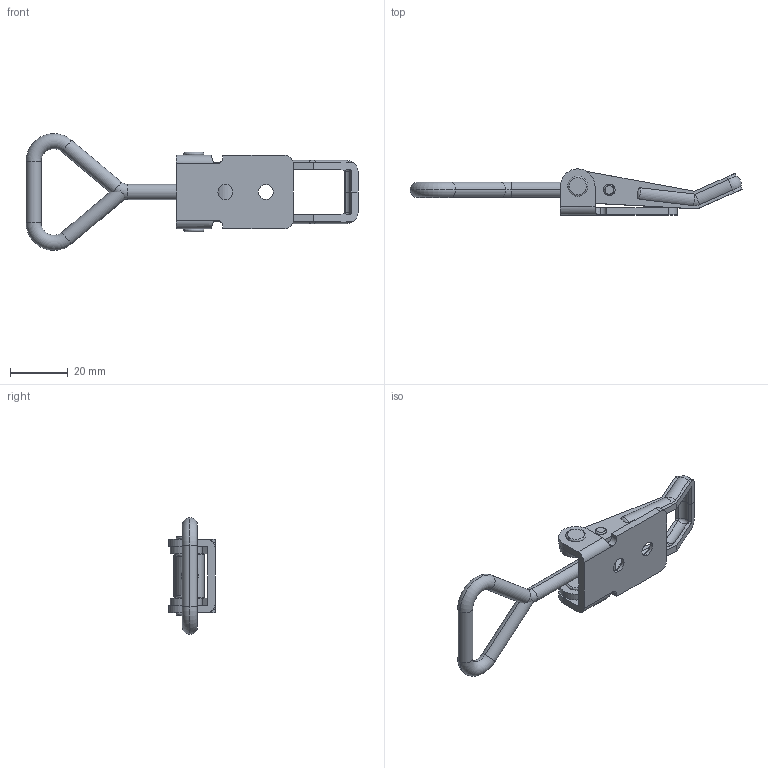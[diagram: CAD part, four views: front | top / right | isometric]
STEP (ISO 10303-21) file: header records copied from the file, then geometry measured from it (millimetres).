
FILE_DESCRIPTION (( 'STEP AP203' ), '1' );
FILE_NAME ('Wiberger-el2130-100-rfe.step', '2013-10-24T12:07:33', ( 'Magnus' ), ( 'Wiberger' ), 'SwSTEP 2.0', 'SolidWorks 2011', '' );
FILE_SCHEMA (( 'CONFIG_CONTROL_DESIGN' ));
Length unit declared in the file: millimetre
Products named in the file (6): Wiberger-el2030-100-rfe_bygel; Wiberger-el2130-100-rfe_platta; Wiberger-nit4x5; Wiberger-el2130-100-rfe_rulle; Wiberger-el2130-100-rfe; Wiberger-el2130-100-rfe_grepp
Assembly tree (6 placements, depth 2):
  Wiberger-el2130-100-rfe
    Wiberger-el2130-100-rfe_platta
    Wiberger-el2130-100-rfe_rulle
    Wiberger-nit4x5  x2
    Wiberger-el2030-100-rfe_bygel
    Wiberger-el2130-100-rfe_grepp
Bounding box: 115.23 x 16 x 40.5 mm (x, y, z)
Volume: 10083.5 mm3; surface area: 9696.7 mm2
Topology: 7 solids, 7 shells, 160 faces, 374 edges, 230 vertices
Faces by surface type: cylinder 70, plane 50, torus 26, cone 12, bspline 2
Entity records: 5334 total; most frequent: CARTESIAN_POINT 1095, DIRECTION 816, ORIENTED_EDGE 708, EDGE_CURVE 354, AXIS2_PLACEMENT_3D 321, VERTEX_POINT 218, VECTOR 174, LINE 174
